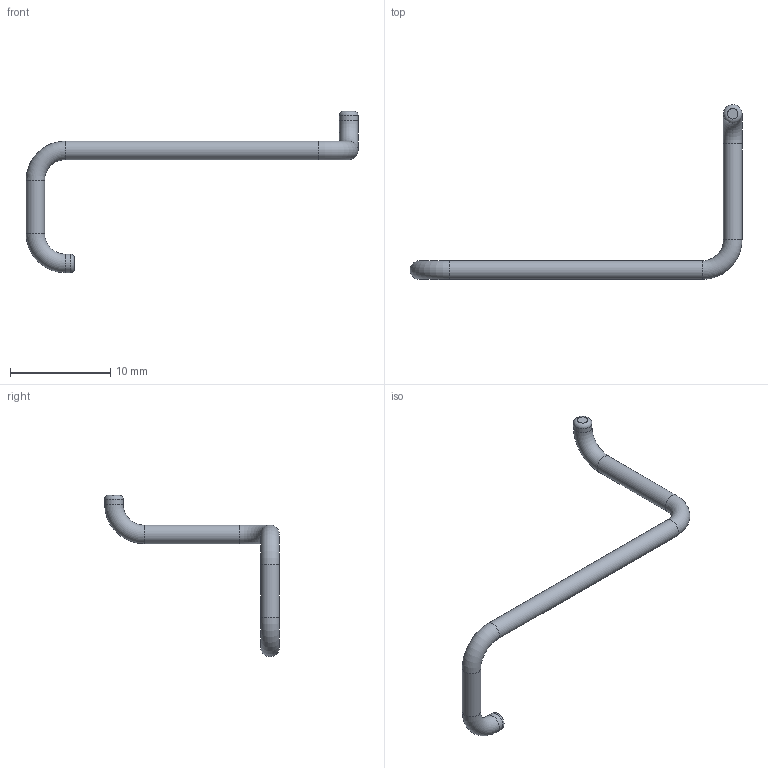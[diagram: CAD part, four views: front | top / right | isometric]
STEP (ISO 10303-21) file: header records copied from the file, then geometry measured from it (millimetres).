
FILE_DESCRIPTION(('Open CASCADE Model'),'2;1');
FILE_NAME('CUT_ROUTE_07_RADIAL_CLEARANCE_0p4','2026-09-15T14:21:42',( 'Author'),('Open CASCADE'),'Open CASCADE STEP processor 7.9', 'build123d','Unknown');
FILE_SCHEMA(('AUTOMOTIVE_DESIGN { 1 0 10303 214 1 1 1 1 }'));
Length unit declared in the file: millimetre
Products named in the file (1): CUT_ROUTE_07_RADIAL_CLEARANCE_0p4
Bounding box: 33.08 x 17.41 x 16.09 mm (x, y, z)
Volume: 162.8 mm3; surface area: 356 mm2
Topology: 1 solids, 1 shells, 13 faces, 23 edges, 12 vertices
Faces by surface type: torus 6, cylinder 5, plane 2
Full cylindrical faces by diameter (mm): 1.85 x5
Entity records: 607 total; most frequent: CARTESIAN_POINT 112, DIRECTION 98, ORIENTED_EDGE 46, PCURVE 46, DEFINITIONAL_REPRESENTATION 46, AXIS2_PLACEMENT_3D 32, LINE 32, VECTOR 32
